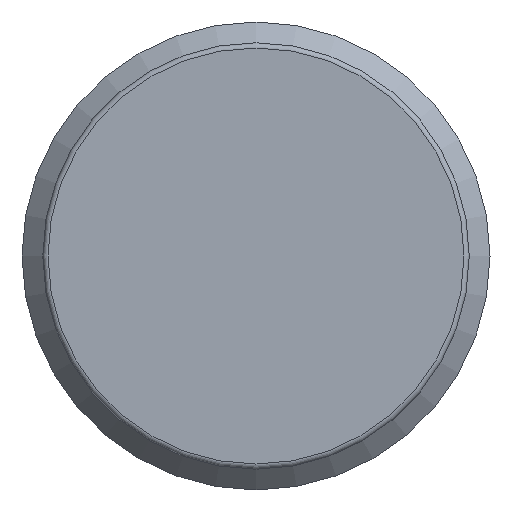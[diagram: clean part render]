
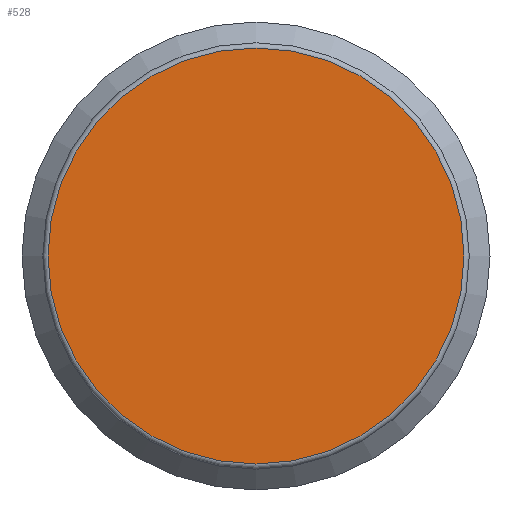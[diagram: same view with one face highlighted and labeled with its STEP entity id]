
A CAD part, left-side view. The second image highlights one B-rep face of the part: STEP entity #528.
In plain terms, the highlighted planar face has unit normal (-1, 0, 0).
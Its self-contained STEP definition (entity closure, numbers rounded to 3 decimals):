
#528 = ADVANCED_FACE( '', ( #778 ), #779, .T. );
#778 = FACE_OUTER_BOUND( '', #1300, .T. );
#779 = PLANE( '', #1301 );
#1300 = EDGE_LOOP( '', ( #1586 ) );
#1301 = AXIS2_PLACEMENT_3D( '', #1587, #1588, #1589 );
#1586 = ORIENTED_EDGE( '', *, *, #1884, .T. );
#1587 = CARTESIAN_POINT( '', ( 0., 0., 0. ) );
#1588 = DIRECTION( '', ( -1., 0., 0. ) );
#1589 = DIRECTION( '', ( 0., 0., 1. ) );
#1884 = EDGE_CURVE( '', #2240, #2240, #2241, .T. );
#2240 = VERTEX_POINT( '', #2830 );
#2241 = CIRCLE( '', #2831, 8. );
#2830 = CARTESIAN_POINT( '', ( 0., 0., 8. ) );
#2831 = AXIS2_PLACEMENT_3D( '', #2873, #2874, #2875 );
#2873 = CARTESIAN_POINT( '', ( 0., 0., 0. ) );
#2874 = DIRECTION( '', ( -1., 0., 0. ) );
#2875 = DIRECTION( '', ( 0., 0., 1. ) );
